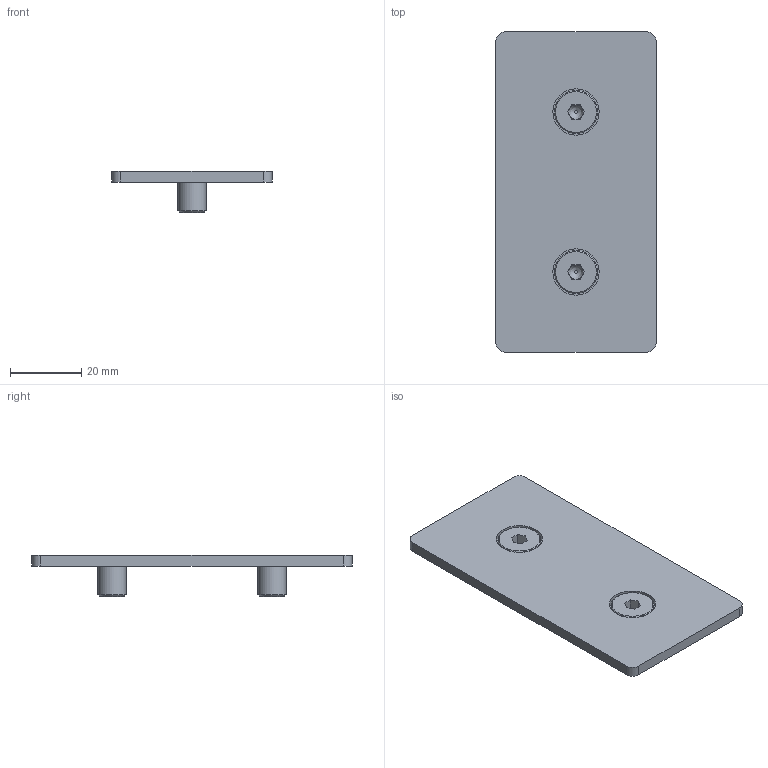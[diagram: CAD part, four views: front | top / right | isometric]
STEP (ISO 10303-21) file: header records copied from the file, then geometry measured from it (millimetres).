
FILE_DESCRIPTION(/* description */ ('END CAP 45X90 AL'),/* implementation_level */ '2;1');
FILE_NAME(/* name */ '22.1068_2 END CAP 45X90 AL.stp',/* time_stamp */ '2025-10-27T10:36:11-04:00',/* author */ ('amoles'),/* organization */ (''),/* preprocessor_version */ 'ST-DEVELOPER v19.2',/* originating_system */ 'Autodesk Inventor 2024',/* authorisation */ '');
FILE_SCHEMA (('AUTOMOTIVE_DESIGN { 1 0 10303 214 3 1 1 }'));
Length unit declared in the file: millimetre
Products named in the file (3): 22.1068/2 ; 22.1068/7 ; 21.1666
Assembly tree (3 placements, depth 2):
  22.1068/2 
    22.1068/7 
    21.1666  x2
Bounding box: 45 x 90 x 11.55 mm (x, y, z)
Volume: 12741.3 mm3; surface area: 10066.1 mm2
Topology: 3 solids, 3 shells, 58 faces, 120 edges, 74 vertices
Faces by surface type: plane 40, cylinder 12, cone 4, bspline 2
Full cylindrical faces by diameter (mm): 8 x2, 8.3 x2, 12 x2, 13 x2
Entity records: 1143 total; most frequent: CARTESIAN_POINT 198, DIRECTION 190, ORIENTED_EDGE 156, EDGE_CURVE 78, AXIS2_PLACEMENT_3D 71, VERTEX_POINT 49, LINE 48, VECTOR 48
